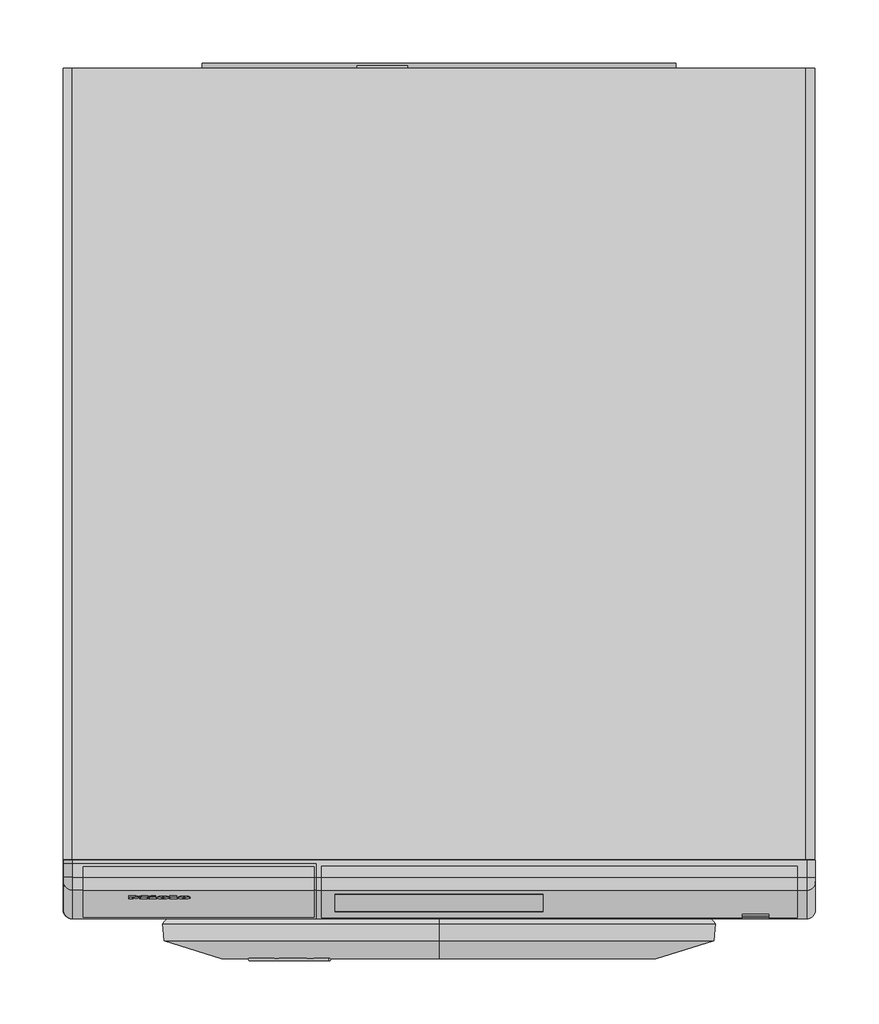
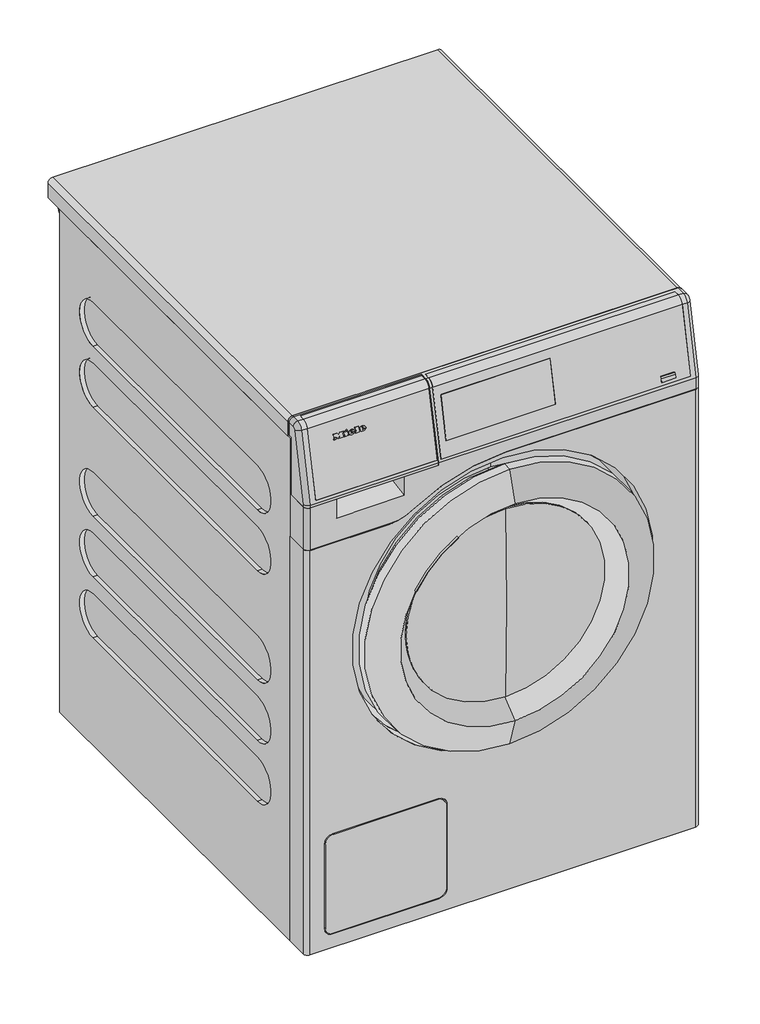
# Not in any storey: 1 proxy.
"""IFC4 building model written with IfcOpenShell, lengths in millimetres."""

from ifc_helpers import new_model, si_unit, origin, place, context, project, spatial, transform, mapped, element, save
from components import specialty_equipment_5f2c54f2, specialty_equipment_d2f98325, specialty_equipment_5b245b4f

model = new_model("IFC4")

# Units and contexts
model_context = context("Model", 3, world=origin())
ifc_project = project(units=[si_unit("LENGTHUNIT", "METRE", prefix="MILLI")], contexts=[model_context])

# Site, building
site = spatial("IfcSite", under=ifc_project)
building = spatial("IfcBuilding", under=site)

# Proxy
placement = place(None, origin())
specialty_equipment_shape = specialty_equipment_5f2c54f2(model_context)
specialty_equipment_2_shape = specialty_equipment_d2f98325(model_context)
specialty_equipment_3_shape = specialty_equipment_5b245b4f(model_context)
element("IfcBuildingElementProxy", 1, Name="11086580_IB_PWM907DP_SST : 51907351_IB_11086580_PWM907DP_SST", ObjectType="11086580_IB_PWM907DP_SST : 51907351_IB_11086580_PWM907DP_SST", at=placement, inside=building, context=model_context, shape_type="MappedRepresentation", body=[
    mapped(specialty_equipment_shape, transform((0.0, 0.0, 0.0), x_axis=(1.0, 0.0, 0.0), y_axis=(0.0, 1.0, 0.0), z_axis=(0.0, 0.0, 1.0))),
    mapped(specialty_equipment_2_shape, transform((0.0, 0.0, 0.0), x_axis=(1.0, 0.0, 0.0), y_axis=(0.0, 1.0, 0.0), z_axis=(0.0, 0.0, 1.0))),
    mapped(specialty_equipment_3_shape, transform((0.0, 0.0, 0.0), x_axis=(1.0, 0.0, 0.0), y_axis=(0.0, 1.0, 0.0), z_axis=(0.0, 0.0, 1.0))),
])

save(model, "model.ifc")
